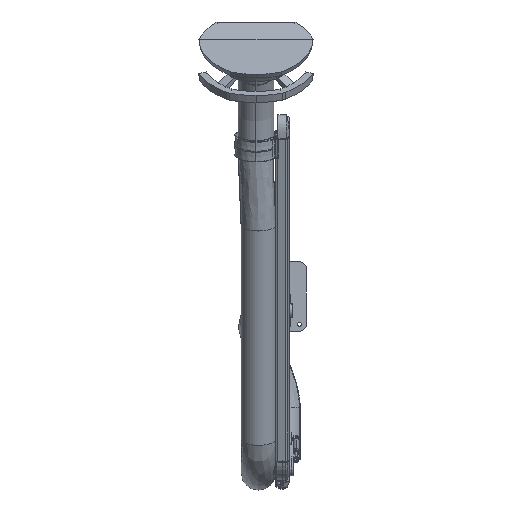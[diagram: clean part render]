
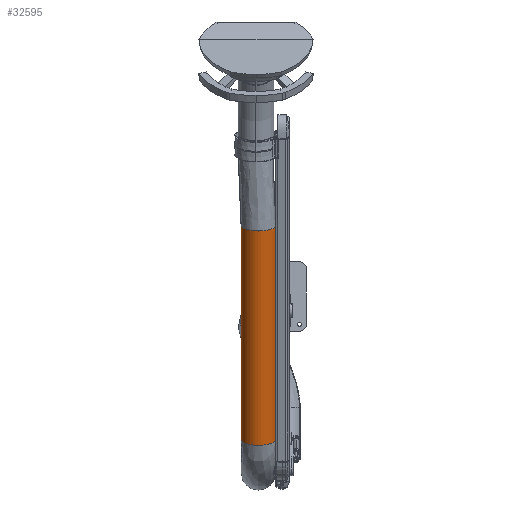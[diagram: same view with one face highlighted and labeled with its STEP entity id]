
A CAD part, front view. The second image highlights one B-rep face of the part: STEP entity #32595.
In plain terms, the highlighted free-form (B-spline) face has degree [3, 3] with [7, 6] control points.
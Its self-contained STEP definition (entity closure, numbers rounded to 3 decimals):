
#31069=CARTESIAN_POINT('',(-120.,0.,-275.));
#31070=CARTESIAN_POINT('',(-120.,0.,-347.778));
#31071=CARTESIAN_POINT('',(-120.,0.,-493.333));
#31072=CARTESIAN_POINT('',(-120.,0.,-711.667));
#31073=CARTESIAN_POINT('',(-120.,0.,-857.222));
#31074=CARTESIAN_POINT('',(-120.,0.,-930.));
#31140=CARTESIAN_POINT('',(-70.,0.,-275.));
#31141=DIRECTION('',(0.,0.,-1.));
#31142=DIRECTION('',(1.,0.,0.));
#31143=AXIS2_PLACEMENT_3D('',#31140,#31141,#31142);
#31148=CARTESIAN_POINT('',(-20.,0.,-275.));
#31149=CARTESIAN_POINT('',(-20.,0.,-347.778));
#31150=CARTESIAN_POINT('',(-20.,0.,-493.333));
#31151=CARTESIAN_POINT('',(-20.,0.,-711.667));
#31152=CARTESIAN_POINT('',(-20.,0.,-857.222));
#31153=CARTESIAN_POINT('',(-20.,0.,-930.));
#31158=CARTESIAN_POINT('',(-70.,0.,-930.));
#31159=DIRECTION('',(0.,0.,-1.));
#31160=DIRECTION('',(1.,0.,0.));
#31161=AXIS2_PLACEMENT_3D('',#31158,#31159,#31160);
#31834=CARTESIAN_POINT('',(-20.,0.,-275.));
#31835=CARTESIAN_POINT('',(-120.,0.,-275.));
#31836=VERTEX_POINT('',#31834);
#31837=VERTEX_POINT('',#31835);
#31838=CARTESIAN_POINT('',(-20.,0.,-930.));
#31839=CARTESIAN_POINT('',(-120.,0.,-930.));
#31840=VERTEX_POINT('',#31838);
#31841=VERTEX_POINT('',#31839);
#32545=CARTESIAN_POINT('',(-20.099,3.14,-261.9));
#32546=CARTESIAN_POINT('',(-20.099,3.14,
-266.267));
#32547=CARTESIAN_POINT('',(-20.099,3.14,
-488.967));
#32548=CARTESIAN_POINT('',(-20.099,3.14,
-716.033));
#32549=CARTESIAN_POINT('',(-20.099,3.14,
-938.733));
#32550=CARTESIAN_POINT('',(-20.099,3.14,-943.1));
#32551=CARTESIAN_POINT('',(-18.167,-27.57,-261.9));
#32552=CARTESIAN_POINT('',(-18.167,-27.57,
-266.267));
#32553=CARTESIAN_POINT('',(-18.167,-27.57,
-488.967));
#32554=CARTESIAN_POINT('',(-18.167,-27.57,
-716.033));
#32555=CARTESIAN_POINT('',(-18.167,-27.57,
-938.733));
#32556=CARTESIAN_POINT('',(-18.167,-27.57,-943.1));
#32557=CARTESIAN_POINT('',(-39.23,-50.,-261.9));
#32558=CARTESIAN_POINT('',(-39.23,-50.,-266.267));
#32559=CARTESIAN_POINT('',(-39.23,-50.,-488.967));
#32560=CARTESIAN_POINT('',(-39.23,-50.,-716.033));
#32561=CARTESIAN_POINT('',(-39.23,-50.,-938.733));
#32562=CARTESIAN_POINT('',(-39.23,-50.,-943.1));
#32563=CARTESIAN_POINT('',(-70.,-50.,-261.9));
#32564=CARTESIAN_POINT('',(-70.,-50.,-266.267));
#32565=CARTESIAN_POINT('',(-70.,-50.,-488.967));
#32566=CARTESIAN_POINT('',(-70.,-50.,-716.033));
#32567=CARTESIAN_POINT('',(-70.,-50.,-938.733));
#32568=CARTESIAN_POINT('',(-70.,-50.,-943.1));
#32569=CARTESIAN_POINT('',(-100.77,-50.,-261.9));
#32570=CARTESIAN_POINT('',(-100.77,-50.,-266.267));
#32571=CARTESIAN_POINT('',(-100.77,-50.,-488.967));
#32572=CARTESIAN_POINT('',(-100.77,-50.,-716.033));
#32573=CARTESIAN_POINT('',(-100.77,-50.,-938.733));
#32574=CARTESIAN_POINT('',(-100.77,-50.,-943.1));
#32575=CARTESIAN_POINT('',(-121.833,-27.57,-261.9));
#32576=CARTESIAN_POINT('',(-121.833,-27.57,
-266.267));
#32577=CARTESIAN_POINT('',(-121.833,-27.57,
-488.967));
#32578=CARTESIAN_POINT('',(-121.833,-27.57,
-716.033));
#32579=CARTESIAN_POINT('',(-121.833,-27.57,
-938.733));
#32580=CARTESIAN_POINT('',(-121.833,-27.57,-943.1));
#32581=CARTESIAN_POINT('',(-119.901,3.14,-261.9));
#32582=CARTESIAN_POINT('',(-119.901,3.14,
-266.267));
#32583=CARTESIAN_POINT('',(-119.901,3.14,
-488.967));
#32584=CARTESIAN_POINT('',(-119.901,3.14,
-716.033));
#32585=CARTESIAN_POINT('',(-119.901,3.14,
-938.733));
#32586=CARTESIAN_POINT('',(-119.901,3.14,-943.1));
#32587=(BOUNDED_SURFACE()B_SPLINE_SURFACE(3,3,((#32545,#32546,#32547,#32548,
#32549,#32550),(#32551,#32552,#32553,#32554,#32555,#32556),(#32557,#32558,
#32559,#32560,#32561,#32562),(#32563,#32564,#32565,#32566,#32567,#32568),
(#32569,#32570,#32571,#32572,#32573,#32574),(#32575,#32576,#32577,#32578,#32579,
#32580),(#32581,#32582,#32583,#32584,#32585,#32586)),.UNSPECIFIED.,.F.,.F.,.F.)B_SPLINE_SURFACE_WITH_KNOTS((4,3,4),(4,1,1,4),(0.,1.,2.),(-0.02,0.,1.,
1.02),.UNSPECIFIED.)GEOMETRIC_REPRESENTATION_ITEM()RATIONAL_B_SPLINE_SURFACE((
(1.187,1.187,1.187,1.187,
1.187,1.187),(0.938,0.938,
0.938,0.938,0.938,0.938),(
0.938,0.938,0.938,0.938,
0.938,0.938),(1.187,1.187,
1.187,1.187,1.187,1.187),(
0.938,0.938,0.938,0.938,
0.938,0.938),(0.938,0.938,
0.938,0.938,0.938,0.938),(
1.187,1.187,1.187,1.187,
1.187,1.187)))REPRESENTATION_ITEM('')SURFACE());
#32588=ORIENTED_EDGE('',*,*,#32539,.F.);
#32589=ORIENTED_EDGE('',*,*,#32391,.T.);
#32591=ORIENTED_EDGE('',*,*,#32590,.T.);
#32592=ORIENTED_EDGE('',*,*,#32388,.F.);
#32593=EDGE_LOOP('',(#32588,#32589,#32591,#32592));
#32594=FACE_OUTER_BOUND('',#32593,.F.);
#31075=B_SPLINE_CURVE_WITH_KNOTS('',3,(#31069,#31070,#31071,#31072,#31073,
#31074),.UNSPECIFIED.,.F.,.F.,(4,1,1,4),(0.,0.333,
0.667,1.),.UNSPECIFIED.);
#31144=CIRCLE('',#31143,50.);
#31154=B_SPLINE_CURVE_WITH_KNOTS('',3,(#31148,#31149,#31150,#31151,#31152,
#31153),.UNSPECIFIED.,.F.,.F.,(4,1,1,4),(0.,0.333,
0.667,1.),.UNSPECIFIED.);
#31162=CIRCLE('',#31161,50.);
#32388=EDGE_CURVE('',#31837,#31841,#31075,.T.);
#32391=EDGE_CURVE('',#31836,#31840,#31154,.T.);
#32539=EDGE_CURVE('',#31836,#31837,#31144,.T.);
#32590=EDGE_CURVE('',#31840,#31841,#31162,.T.);
#32595=ADVANCED_FACE('',(#32594),#32587,.T.);
